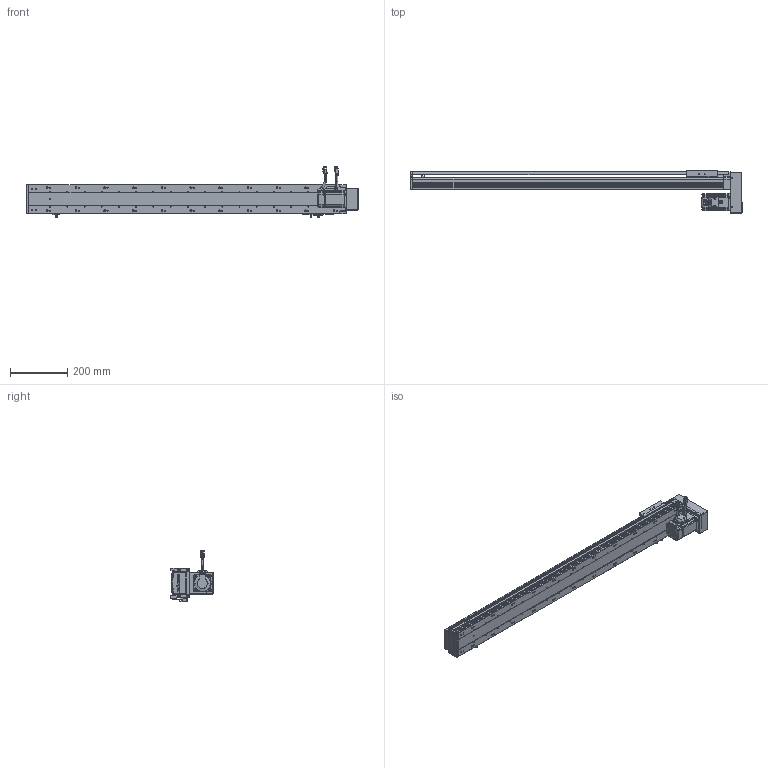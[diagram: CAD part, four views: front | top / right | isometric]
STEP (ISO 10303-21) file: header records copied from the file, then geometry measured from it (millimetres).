
FILE_DESCRIPTION (( 'STEP AP203' ), '1' );
FILE_NAME ('RY100S-L1620-900-BK-双拉.STEP', '2024-05-25T07:53:59', ( '盈信电脑' ), ( '东莞市道滘镇水果街19号' ), 'SwSTEP 2.0', 'SolidWorks 2016', '' );
FILE_SCHEMA (( 'CONFIG_CONTROL_DESIGN' ));
Length unit declared in the file: millimetre
Products named in the file (20): 覜茼ん672; 6; RY100S-800-LK型材底座(低组15双轨)_900; 侂狟200W萇儂; RY100S转折电机端支撑座(15双轨); 滅袉蝶18-10; RY100S狟殏萇儂欶(15邧寢); 滅袉蝶18-24; 4; 100S铝滑块（15双轨单滑块）低组装; RY100S下折电机安装板（15双轨）; RY100S-L1620-900-BK-邧嶺; RY100S-800-LK转折型材上盖(15双轨)_900; 7; RY100綴裔啣; 2; RY100俋离覜茼え; 1; 3; 5
Assembly tree (21 placements, depth 3):
  RY100S-L1620-900-BK-邧嶺
    RY100S-800-LK型材底座(低组15双轨)_900
    RY100S-800-LK转折型材上盖(15双轨)_900
    覜茼ん672  x3
    滅袉蝶18-10
    RY100俋离覜茼え
    RY100S转折电机端支撑座(15双轨)
    滅袉蝶18-24
    RY100綴裔啣
    RY100S狟殏萇儂欶(15邧寢)
    侂狟200W萇儂
      1
      2
      3
      4
      5
      6
      7
    RY100S下折电机安装板（15双轨）
    100S铝滑块（15双轨单滑块）低组装
Bounding box: 1157 x 147 x 179.5 mm (x, y, z)
Volume: 2552521.3 mm3; surface area: 1010547.8 mm2
Topology: 20 solids, 20 shells, 2905 faces, 7916 edges, 5136 vertices
Faces by surface type: plane 1621, cylinder 1013, cone 157, bspline 114
Entity records: 96132 total; most frequent: CARTESIAN_POINT 25442, ORIENTED_EDGE 14676, DIRECTION 13591, EDGE_CURVE 7338, VERTEX_POINT 4816, LINE 4681, VECTOR 4681, AXIS2_PLACEMENT_3D 4455
